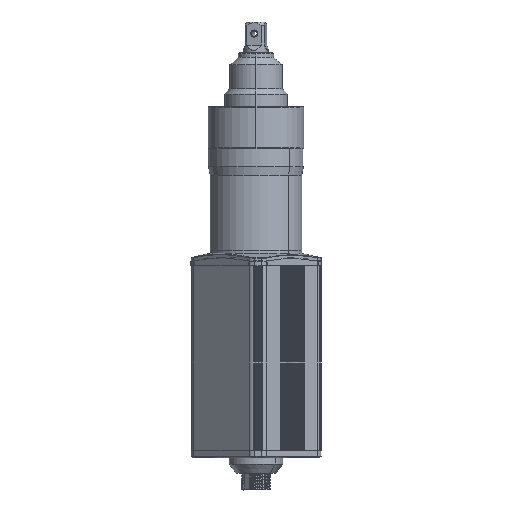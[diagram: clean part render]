
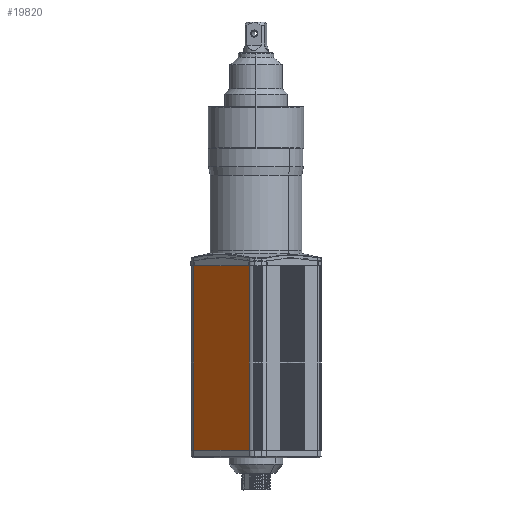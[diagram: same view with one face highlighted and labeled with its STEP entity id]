
A CAD part, left-side view. The second image highlights one B-rep face of the part: STEP entity #19820.
In plain terms, the highlighted planar face has unit normal (-0.707, 0.707, 0).
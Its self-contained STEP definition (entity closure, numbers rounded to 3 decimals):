
#393 = CARTESIAN_POINT ( 'NONE',  ( -4.293, 40.538, -196.5 ) ) ;
#1444 = FACE_OUTER_BOUND ( 'NONE', #19597, .T. ) ;
#1785 = CARTESIAN_POINT ( 'NONE',  ( -40.538, 4.293, -76.5 ) ) ;
#2816 = DIRECTION ( 'NONE',  ( -0.707, -0.707, 0. ) ) ;
#5547 = VECTOR ( 'NONE', #16185, 1000. ) ;
#9583 = EDGE_CURVE ( 'NONE', #13192, #21063, #13148, .T. ) ;
#10361 = LINE ( 'NONE', #15345, #18045 ) ;
#10902 = EDGE_CURVE ( 'NONE', #11982, #21063, #10361, .T. ) ;
#11519 = PLANE ( 'NONE',  #22201 ) ;
#11982 = VERTEX_POINT ( 'NONE', #393 ) ;
#12532 = VECTOR ( 'NONE', #18496, 1000. ) ;
#13014 = LINE ( 'NONE', #23734, #33026 ) ;
#13148 = LINE ( 'NONE', #14115, #12532 ) ;
#13192 = VERTEX_POINT ( 'NONE', #1785 ) ;
#14115 = CARTESIAN_POINT ( 'NONE',  ( -40.538, 4.293, -76.5 ) ) ;
#15345 = CARTESIAN_POINT ( 'NONE',  ( -4.293, 40.538, -196.5 ) ) ;
#16037 = EDGE_CURVE ( 'NONE', #30328, #11982, #34177, .T. ) ;
#16185 = DIRECTION ( 'NONE',  ( 0., 0., -1. ) ) ;
#17171 = DIRECTION ( 'NONE',  ( 0., 0., 1. ) ) ;
#17458 = CARTESIAN_POINT ( 'NONE',  ( -40.538, 4.293, -196.5 ) ) ;
#18045 = VECTOR ( 'NONE', #26210, 1000. ) ;
#18456 = CARTESIAN_POINT ( 'NONE',  ( -4.293, 40.538, -76.5 ) ) ;
#18496 = DIRECTION ( 'NONE',  ( 0., 0., -1. ) ) ;
#19597 = EDGE_LOOP ( 'NONE', ( #26737, #26744, #24845, #28705 ) ) ;
#19604 = CARTESIAN_POINT ( 'NONE',  ( -4.293, 40.538, -76.5 ) ) ;
#19820 = ADVANCED_FACE ( 'NONE', ( #1444 ), #11519, .F. ) ;
#21063 = VERTEX_POINT ( 'NONE', #17458 ) ;
#22201 = AXIS2_PLACEMENT_3D ( 'NONE', #19604, #32390, #17171 ) ;
#23734 = CARTESIAN_POINT ( 'NONE',  ( -4.293, 40.538, -76.5 ) ) ;
#24845 = ORIENTED_EDGE ( 'NONE', *, *, #32219, .F. ) ;
#26210 = DIRECTION ( 'NONE',  ( -0.707, -0.707, 0. ) ) ;
#26737 = ORIENTED_EDGE ( 'NONE', *, *, #10902, .T. ) ;
#26744 = ORIENTED_EDGE ( 'NONE', *, *, #9583, .F. ) ;
#28705 = ORIENTED_EDGE ( 'NONE', *, *, #16037, .T. ) ;
#28994 = CARTESIAN_POINT ( 'NONE',  ( -4.293, 40.538, -76.5 ) ) ;
#30328 = VERTEX_POINT ( 'NONE', #18456 ) ;
#32219 = EDGE_CURVE ( 'NONE', #30328, #13192, #13014, .T. ) ;
#32390 = DIRECTION ( 'NONE',  ( 0.707, -0.707, 0. ) ) ;
#33026 = VECTOR ( 'NONE', #2816, 1000. ) ;
#34177 = LINE ( 'NONE', #28994, #5547 ) ;
